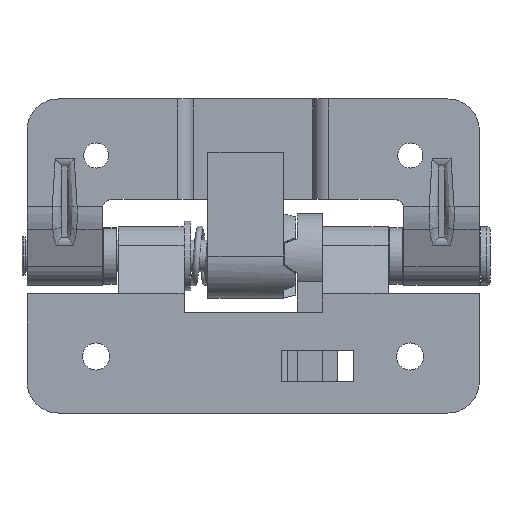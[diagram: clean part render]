
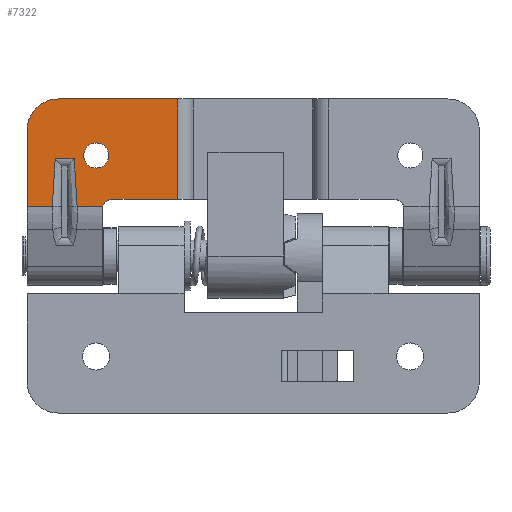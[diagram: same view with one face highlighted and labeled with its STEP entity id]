
A CAD part, front view. The second image highlights one B-rep face of the part: STEP entity #7322.
In plain terms, the highlighted planar face has unit normal (0, -1, 0).
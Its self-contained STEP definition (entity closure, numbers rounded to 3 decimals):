
#187 = VERTEX_POINT ( 'NONE', #762 ) ;
#464 = DIRECTION ( 'NONE',  ( 0., 1., 0. ) ) ;
#547 = CARTESIAN_POINT ( 'NONE',  ( -23.948, 0., 7.892 ) ) ;
#656 = CARTESIAN_POINT ( 'NONE',  ( -28.242, 0., 12.944 ) ) ;
#679 = ORIENTED_EDGE ( 'NONE', *, *, #4349, .T. ) ;
#762 = CARTESIAN_POINT ( 'NONE',  ( -36., 0., 20. ) ) ;
#773 = DIRECTION ( 'NONE',  ( 0., 1., 0. ) ) ;
#831 = CARTESIAN_POINT ( 'NONE',  ( 36., 0., 7.892 ) ) ;
#876 = EDGE_CURVE ( 'NONE', #11349, #7968, #10527, .T. ) ;
#1175 = VERTEX_POINT ( 'NONE', #6925 ) ;
#1279 = VERTEX_POINT ( 'NONE', #7702 ) ;
#1425 = CARTESIAN_POINT ( 'NONE',  ( 36., 0., 25. ) ) ;
#1427 = EDGE_CURVE ( 'NONE', #10035, #10588, #3560, .T. ) ;
#1436 = CARTESIAN_POINT ( 'NONE',  ( -12., 0., 25. ) ) ;
#1530 = AXIS2_PLACEMENT_3D ( 'NONE', #9208, #10109, #4582 ) ;
#1667 = ORIENTED_EDGE ( 'NONE', *, *, #1427, .T. ) ;
#1682 = EDGE_LOOP ( 'NONE', ( #3544, #3038, #5907, #5676, #2741, #9539, #679, #1667, #11229, #4185, #2244 ) ) ;
#1731 = EDGE_CURVE ( 'NONE', #3196, #1175, #8904, .T. ) ;
#1785 = VERTEX_POINT ( 'NONE', #9570 ) ;
#1827 = DIRECTION ( 'NONE',  ( 1., 0., 0. ) ) ;
#2016 = VERTEX_POINT ( 'NONE', #8962 ) ;
#2244 = ORIENTED_EDGE ( 'NONE', *, *, #7577, .T. ) ;
#2334 = CARTESIAN_POINT ( 'NONE',  ( -31.758, 0., 12.944 ) ) ;
#2394 = CARTESIAN_POINT ( 'NONE',  ( -31.903, 0., 10.42 ) ) ;
#2507 = CARTESIAN_POINT ( 'NONE',  ( -25., 0., 16. ) ) ;
#2741 = ORIENTED_EDGE ( 'NONE', *, *, #8043, .T. ) ;
#2779 = CARTESIAN_POINT ( 'NONE',  ( -36., 0., 25. ) ) ;
#2828 = PLANE ( 'NONE',  #5482 ) ;
#2918 = CARTESIAN_POINT ( 'NONE',  ( 36., 0., 9. ) ) ;
#2947 = EDGE_CURVE ( 'NONE', #187, #10790, #7385, .T. ) ;
#2950 = CARTESIAN_POINT ( 'NONE',  ( 36., 0., 25. ) ) ;
#3038 = ORIENTED_EDGE ( 'NONE', *, *, #4379, .T. ) ;
#3049 = EDGE_CURVE ( 'NONE', #10588, #1785, #9004, .T. ) ;
#3196 = VERTEX_POINT ( 'NONE', #7518 ) ;
#3335 = CARTESIAN_POINT ( 'NONE',  ( -28.338, 0., 14.205 ) ) ;
#3424 = LINE ( 'NONE', #1436, #5063 ) ;
#3543 = CARTESIAN_POINT ( 'NONE',  ( -12., 0., 9. ) ) ;
#3544 = ORIENTED_EDGE ( 'NONE', *, *, #876, .T. ) ;
#3560 = LINE ( 'NONE', #831, #10647 ) ;
#3671 = VECTOR ( 'NONE', #3966, 1000. ) ;
#3678 = VERTEX_POINT ( 'NONE', #10270 ) ;
#3901 = AXIS2_PLACEMENT_3D ( 'NONE', #2507, #5286, #5223 ) ;
#3966 = DIRECTION ( 'NONE',  ( -1., 0., 0. ) ) ;
#4015 = EDGE_CURVE ( 'NONE', #1785, #4846, #6505, .T. ) ;
#4165 = DIRECTION ( 'NONE',  ( 0., 0., 1. ) ) ;
#4185 = ORIENTED_EDGE ( 'NONE', *, *, #4015, .T. ) ;
#4274 = B_SPLINE_CURVE_WITH_KNOTS ( 'NONE', 3,
 ( #6368, #3335, #656, #7946, #8187, #9881 ),
 .UNSPECIFIED., .F., .F.,
 ( 4, 2, 4 ),
 ( -0.001, 0.003, 0.006 ),
 .UNSPECIFIED. ) ;
#4349 = EDGE_CURVE ( 'NONE', #3678, #10035, #4274, .T. ) ;
#4353 = DIRECTION ( 'NONE',  ( 1., 0., 0. ) ) ;
#4379 = EDGE_CURVE ( 'NONE', #7968, #187, #8659, .T. ) ;
#4484 = CARTESIAN_POINT ( 'NONE',  ( -36., 0., 7.892 ) ) ;
#4582 = DIRECTION ( 'NONE',  ( 0., 0., 1. ) ) ;
#4846 = VERTEX_POINT ( 'NONE', #3543 ) ;
#5063 = VECTOR ( 'NONE', #7918, 1000. ) ;
#5223 = DIRECTION ( 'NONE',  ( 0., 0., 1. ) ) ;
#5257 = EDGE_LOOP ( 'NONE', ( #6171, #7513 ) ) ;
#5286 = DIRECTION ( 'NONE',  ( 0., 1., 0. ) ) ;
#5319 = LINE ( 'NONE', #6012, #11701 ) ;
#5482 = AXIS2_PLACEMENT_3D ( 'NONE', #2950, #773, #6535 ) ;
#5676 = ORIENTED_EDGE ( 'NONE', *, *, #10986, .T. ) ;
#5734 = VECTOR ( 'NONE', #6185, 1000. ) ;
#5907 = ORIENTED_EDGE ( 'NONE', *, *, #2947, .T. ) ;
#6012 = CARTESIAN_POINT ( 'NONE',  ( 36., 0., 7.892 ) ) ;
#6025 = VECTOR ( 'NONE', #1827, 1000. ) ;
#6171 = ORIENTED_EDGE ( 'NONE', *, *, #6912, .T. ) ;
#6185 = DIRECTION ( 'NONE',  ( 1., 0., 0. ) ) ;
#6368 = CARTESIAN_POINT ( 'NONE',  ( -28.49, 0., 15.461 ) ) ;
#6505 = LINE ( 'NONE', #2918, #6025 ) ;
#6535 = DIRECTION ( 'NONE',  ( 0., 0., 1. ) ) ;
#6720 = AXIS2_PLACEMENT_3D ( 'NONE', #11758, #10922, #9825 ) ;
#6912 = EDGE_CURVE ( 'NONE', #1175, #3196, #7023, .T. ) ;
#6925 = CARTESIAN_POINT ( 'NONE',  ( -25., 0., 18. ) ) ;
#7006 = CARTESIAN_POINT ( 'NONE',  ( -31.662, 0., 14.205 ) ) ;
#7023 = CIRCLE ( 'NONE', #3901, 2. ) ;
#7273 = FACE_BOUND ( 'NONE', #5257, .T. ) ;
#7322 = ADVANCED_FACE ( 'NONE', ( #7273, #9942 ), #2828, .F. ) ;
#7385 = LINE ( 'NONE', #2779, #11523 ) ;
#7513 = ORIENTED_EDGE ( 'NONE', *, *, #1731, .T. ) ;
#7518 = CARTESIAN_POINT ( 'NONE',  ( -25., 0., 14. ) ) ;
#7577 = EDGE_CURVE ( 'NONE', #4846, #11349, #3424, .T. ) ;
#7702 = CARTESIAN_POINT ( 'NONE',  ( -31.51, 0., 15.461 ) ) ;
#7731 = CARTESIAN_POINT ( 'NONE',  ( -31., 0., 25. ) ) ;
#7828 = CARTESIAN_POINT ( 'NONE',  ( -28.025, 0., 7.892 ) ) ;
#7918 = DIRECTION ( 'NONE',  ( 0., 0., 1. ) ) ;
#7946 = CARTESIAN_POINT ( 'NONE',  ( -28.097, 0., 10.42 ) ) ;
#7963 = CARTESIAN_POINT ( 'NONE',  ( -31.975, 0., 7.892 ) ) ;
#7968 = VERTEX_POINT ( 'NONE', #7731 ) ;
#8033 = AXIS2_PLACEMENT_3D ( 'NONE', #11627, #464, #4165 ) ;
#8043 = EDGE_CURVE ( 'NONE', #2016, #1279, #11026, .T. ) ;
#8055 = LINE ( 'NONE', #10789, #5734 ) ;
#8187 = CARTESIAN_POINT ( 'NONE',  ( -28.051, 0., 9.156 ) ) ;
#8659 = CIRCLE ( 'NONE', #6720, 5. ) ;
#8904 = CIRCLE ( 'NONE', #1530, 2. ) ;
#8962 = CARTESIAN_POINT ( 'NONE',  ( -31.975, 0., 7.892 ) ) ;
#9004 = CIRCLE ( 'NONE', #8033, 1.5 ) ;
#9208 = CARTESIAN_POINT ( 'NONE',  ( -25., 0., 16. ) ) ;
#9539 = ORIENTED_EDGE ( 'NONE', *, *, #10096, .T. ) ;
#9570 = CARTESIAN_POINT ( 'NONE',  ( -22.5, 0., 9. ) ) ;
#9825 = DIRECTION ( 'NONE',  ( 0., 0., 1. ) ) ;
#9881 = CARTESIAN_POINT ( 'NONE',  ( -28.025, 0., 7.892 ) ) ;
#9942 = FACE_OUTER_BOUND ( 'NONE', #1682, .T. ) ;
#10035 = VERTEX_POINT ( 'NONE', #7828 ) ;
#10048 = DIRECTION ( 'NONE',  ( 1., 0., 0. ) ) ;
#10096 = EDGE_CURVE ( 'NONE', #1279, #3678, #8055, .T. ) ;
#10109 = DIRECTION ( 'NONE',  ( 0., 1., 0. ) ) ;
#10270 = CARTESIAN_POINT ( 'NONE',  ( -28.49, 0., 15.461 ) ) ;
#10527 = LINE ( 'NONE', #1425, #3671 ) ;
#10588 = VERTEX_POINT ( 'NONE', #547 ) ;
#10647 = VECTOR ( 'NONE', #10048, 1000. ) ;
#10789 = CARTESIAN_POINT ( 'NONE',  ( 36., 0., 15.461 ) ) ;
#10790 = VERTEX_POINT ( 'NONE', #4484 ) ;
#10873 = CARTESIAN_POINT ( 'NONE',  ( -31.949, 0., 9.156 ) ) ;
#10922 = DIRECTION ( 'NONE',  ( 0., -1., 0. ) ) ;
#10986 = EDGE_CURVE ( 'NONE', #10790, #2016, #5319, .T. ) ;
#11026 = B_SPLINE_CURVE_WITH_KNOTS ( 'NONE', 3,
 ( #7963, #10873, #2394, #2334, #7006, #11776 ),
 .UNSPECIFIED., .F., .F.,
 ( 4, 2, 4 ),
 ( 0., 0.004, 0.008 ),
 .UNSPECIFIED. ) ;
#11229 = ORIENTED_EDGE ( 'NONE', *, *, #3049, .T. ) ;
#11349 = VERTEX_POINT ( 'NONE', #11683 ) ;
#11523 = VECTOR ( 'NONE', #11978, 1000. ) ;
#11627 = CARTESIAN_POINT ( 'NONE',  ( -22.5, 0., 7.5 ) ) ;
#11683 = CARTESIAN_POINT ( 'NONE',  ( -12., 0., 25. ) ) ;
#11701 = VECTOR ( 'NONE', #4353, 1000. ) ;
#11758 = CARTESIAN_POINT ( 'NONE',  ( -31., 0., 20. ) ) ;
#11776 = CARTESIAN_POINT ( 'NONE',  ( -31.51, 0., 15.461 ) ) ;
#11978 = DIRECTION ( 'NONE',  ( 0., 0., -1. ) ) ;
